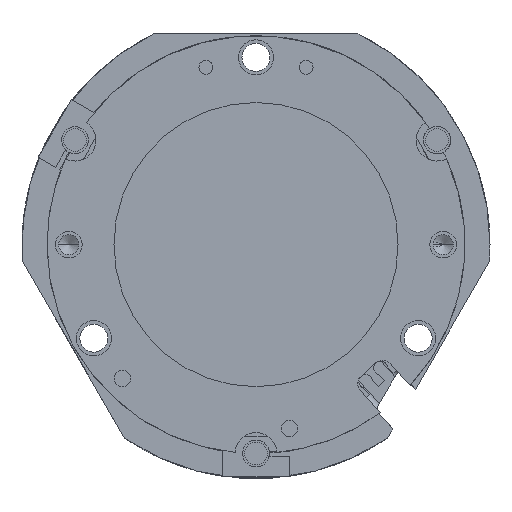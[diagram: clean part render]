
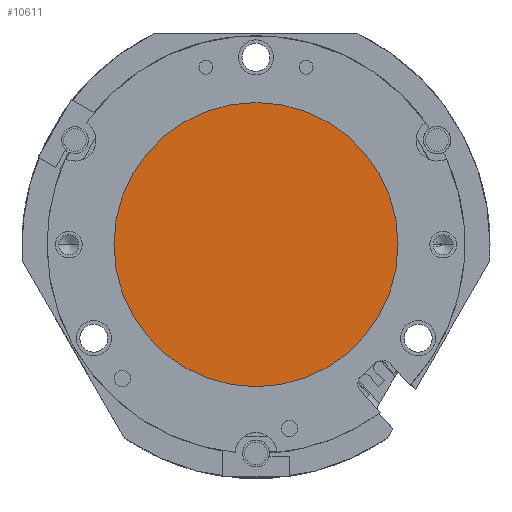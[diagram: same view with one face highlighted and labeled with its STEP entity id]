
A CAD part, front view. The second image highlights one B-rep face of the part: STEP entity #10611.
In plain terms, the highlighted planar face has unit normal (0, -1, 0) as drawn and (0, 1, 0) by its records, which use the part's own axes.
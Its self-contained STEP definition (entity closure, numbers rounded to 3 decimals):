
#1009 = CARTESIAN_POINT ( 'NONE',  ( 0., 5.5, 42.5 ) ) ;
#2000 = DIRECTION ( 'NONE',  ( 0., 1., 0. ) ) ;
#2575 = CARTESIAN_POINT ( 'NONE',  ( 0., 5.5, 0. ) ) ;
#2612 = CARTESIAN_POINT ( 'NONE',  ( 0., 5.5, 0. ) ) ;
#3428 = DIRECTION ( 'NONE',  ( 0., 1., 0. ) ) ;
#3654 = AXIS2_PLACEMENT_3D ( 'NONE', #11524, #2000, #6786 ) ;
#4080 = VERTEX_POINT ( 'NONE', #1009 ) ;
#4418 = EDGE_LOOP ( 'NONE', ( #11359, #9110 ) ) ;
#5393 = PLANE ( 'NONE',  #5910 ) ;
#5612 = CIRCLE ( 'NONE', #3654, 42.5 ) ;
#5910 = AXIS2_PLACEMENT_3D ( 'NONE', #2612, #3428, #10028 ) ;
#5933 = EDGE_CURVE ( 'NONE', #9544, #4080, #5612, .T. ) ;
#6786 = DIRECTION ( 'NONE',  ( 1., 0., 0. ) ) ;
#6803 = CARTESIAN_POINT ( 'NONE',  ( 0., 5.5, -42.5 ) ) ;
#7569 = EDGE_CURVE ( 'NONE', #4080, #9544, #9673, .T. ) ;
#9110 = ORIENTED_EDGE ( 'NONE', *, *, #7569, .T. ) ;
#9544 = VERTEX_POINT ( 'NONE', #6803 ) ;
#9673 = CIRCLE ( 'NONE', #11071, 42.5 ) ;
#10028 = DIRECTION ( 'NONE',  ( 0., 0., 1. ) ) ;
#10611 = ADVANCED_FACE ( 'NONE', ( #10905 ), #5393, .T. ) ;
#10905 = FACE_OUTER_BOUND ( 'NONE', #4418, .T. ) ;
#10927 = DIRECTION ( 'NONE',  ( 0., 1., 0. ) ) ;
#11071 = AXIS2_PLACEMENT_3D ( 'NONE', #2575, #10927, #11871 ) ;
#11359 = ORIENTED_EDGE ( 'NONE', *, *, #5933, .T. ) ;
#11524 = CARTESIAN_POINT ( 'NONE',  ( 0., 5.5, 0. ) ) ;
#11871 = DIRECTION ( 'NONE',  ( 1., 0., 0. ) ) ;
